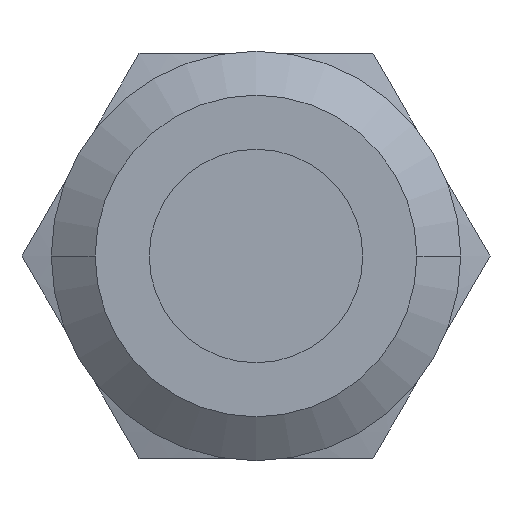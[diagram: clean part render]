
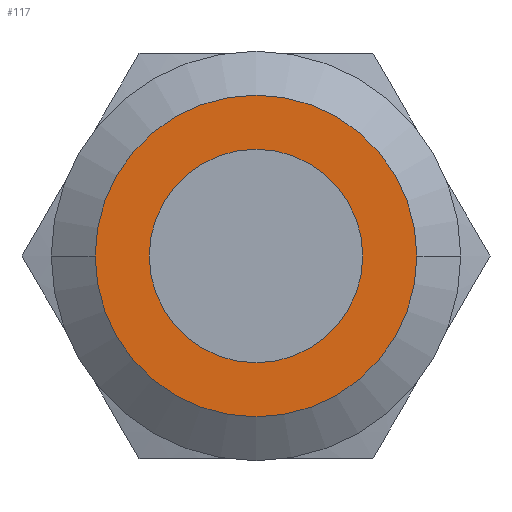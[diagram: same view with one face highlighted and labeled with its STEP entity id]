
A CAD part, left-side view. The second image highlights one B-rep face of the part: STEP entity #117.
In plain terms, the highlighted planar face has unit normal (-1, 0, 0).
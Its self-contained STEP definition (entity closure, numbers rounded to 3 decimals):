
#117=ADVANCED_FACE('',(#282,#283),#284,.F.);
#282=FACE_OUTER_BOUND('',#457,.T.);
#283=FACE_BOUND('',#458,.T.);
#284=PLANE('',#459);
#457=EDGE_LOOP('',(#1022,#1023));
#458=EDGE_LOOP('',(#1024,#1025));
#459=AXIS2_PLACEMENT_3D('',#1026,#1027,#1028);
#1022=ORIENTED_EDGE('',*,*,#1260,.T.);
#1023=ORIENTED_EDGE('',*,*,#1257,.F.);
#1024=ORIENTED_EDGE('',*,*,#1261,.T.);
#1025=ORIENTED_EDGE('',*,*,#1262,.F.);
#1026=CARTESIAN_POINT('',(-1.6,0.0,0.0));
#1027=DIRECTION('',(1.0,0.0,0.0));
#1028=DIRECTION('',(0.0,1.0,-0.0));
#1257=EDGE_CURVE('',#1545,#1546,#1547,.T.);
#1260=EDGE_CURVE('',#1545,#1546,#1550,.T.);
#1261=EDGE_CURVE('',#1551,#1552,#1553,.T.);
#1262=EDGE_CURVE('',#1551,#1552,#1554,.T.);
#1545=VERTEX_POINT('',#2095);
#1546=VERTEX_POINT('',#2096);
#1547=CIRCLE('',#2097,5.5);
#1550=CIRCLE('',#2102,5.5);
#1551=VERTEX_POINT('',#2103);
#1552=VERTEX_POINT('',#2104);
#1553=CIRCLE('',#2105,3.65);
#1554=CIRCLE('',#2106,3.65);
#2095=CARTESIAN_POINT('',(-1.6,5.5,0.0));
#2096=CARTESIAN_POINT('',(-1.6,-5.5,0.0));
#2097=AXIS2_PLACEMENT_3D('',#2383,#2384,#2385);
#2102=AXIS2_PLACEMENT_3D('',#2388,#2389,#2390);
#2103=CARTESIAN_POINT('',(-1.6,3.65,0.0));
#2104=CARTESIAN_POINT('',(-1.6,-3.65,0.0));
#2105=AXIS2_PLACEMENT_3D('',#2391,#2392,#2393);
#2106=AXIS2_PLACEMENT_3D('',#2394,#2395,#2396);
#2383=CARTESIAN_POINT('',(-1.6,0.0,0.0));
#2384=DIRECTION('',(1.0,0.0,0.0));
#2385=DIRECTION('',(0.0,1.0,0.0));
#2388=CARTESIAN_POINT('',(-1.6,0.0,0.0));
#2389=DIRECTION('',(-1.0,0.0,0.0));
#2390=DIRECTION('',(0.0,1.0,0.0));
#2391=CARTESIAN_POINT('',(-1.6,0.0,0.0));
#2392=DIRECTION('',(1.0,0.0,0.0));
#2393=DIRECTION('',(0.0,1.0,0.0));
#2394=CARTESIAN_POINT('',(-1.6,0.0,0.0));
#2395=DIRECTION('',(-1.0,0.0,0.0));
#2396=DIRECTION('',(0.0,1.0,0.0));
